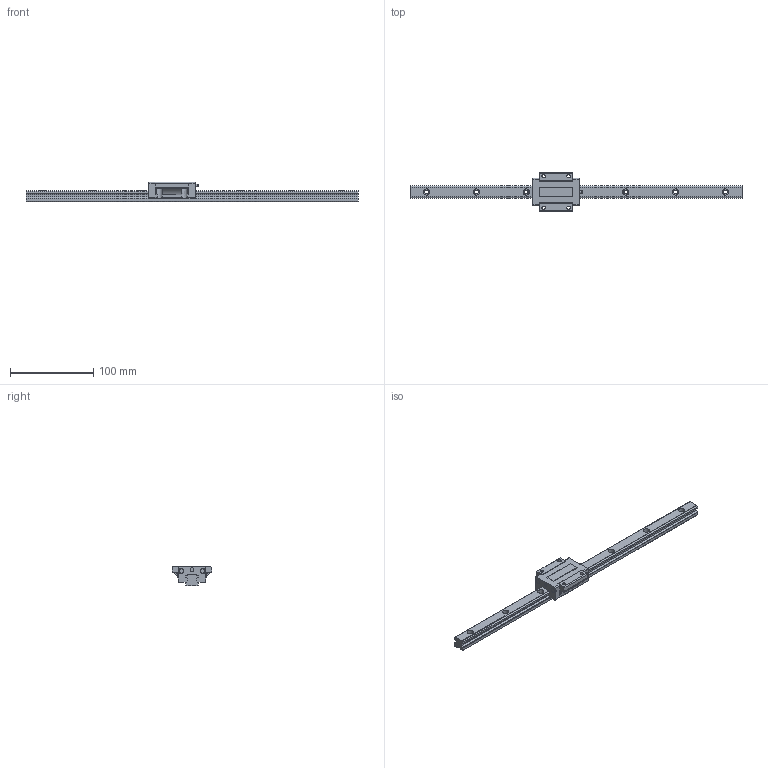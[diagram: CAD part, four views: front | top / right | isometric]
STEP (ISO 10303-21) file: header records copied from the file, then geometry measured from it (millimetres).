
FILE_DESCRIPTION((''),'2;1');
FILE_NAME('C:\Documents and Settings\土屋\My Documents\土屋移動用フォルダ\製品 (図面)\カタログ用3D\リニアガイド\LGH関連\LGH15F.stp','2012-12-13T11:14:17',('y'),(''),'Autodesk Inventor 11','Autodesk Inventor 11','');
FILE_SCHEMA(('AUTOMOTIVE_DESIGN { 1 0 10303 214 1 1 1 1 }'));
Length unit declared in the file: millimetre
Products named in the file (3): LGH15F(1); LGH15レール1; LGH15F(2)
Assembly tree (2 placements, depth 2):
  LGH15F(1)
    LGH15レール1
    LGH15F(2)
Bounding box: 400 x 47 x 24 mm (x, y, z)
Volume: 102026.2 mm3; surface area: 35364.1 mm2
Topology: 2 solids, 2 shells, 162 faces, 414 edges, 276 vertices
Faces by surface type: plane 84, bspline 39, cylinder 37, sphere 2
Full cylindrical faces by diameter (mm): 3 x1, 4 x1, 4.134 x2, 4.5 x1, 5.5 x2, 6 x2
Entity records: 5347 total; most frequent: CARTESIAN_POINT 1478, ORIENTED_EDGE 762, DIRECTION 736, EDGE_CURVE 381, VERTEX_POINT 275, VECTOR 250, LINE 250, AXIS2_PLACEMENT_3D 243
